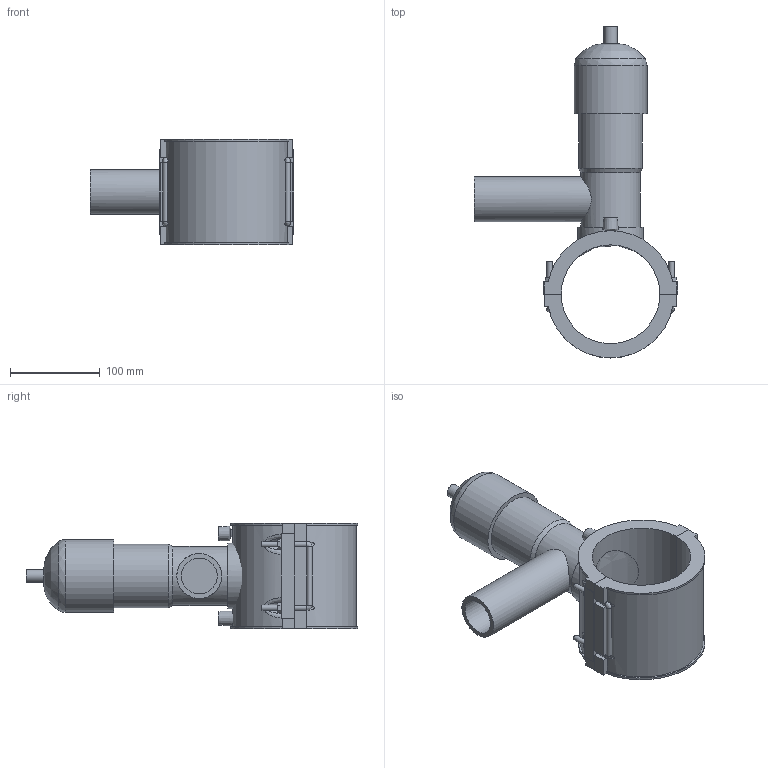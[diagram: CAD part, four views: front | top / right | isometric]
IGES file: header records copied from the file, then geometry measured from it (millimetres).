
Global section: file name: 495404110050.ipt; native system: Autodesk Inventor 2015; preprocessor: unknown; author: KIM; date: 20171106.094248; units: millimetre
Bounding box: 227 x 369.81 x 118 mm (x, y, z)
Volume: 1659140.8 mm3; surface area: 226371.4 mm2
Topology: 3 solids, 5 shells, 157 faces, 388 edges, 246 vertices
Faces by surface type: plane 93, cylinder 29, revolution 16, bspline 12, cone 7
Full cylindrical faces by diameter (mm): 4 x2, 6 x8, 14.64 x1, 50 x1, 65.88 x1, 70.76 x1, 73.2 x1, 81.333 x1
